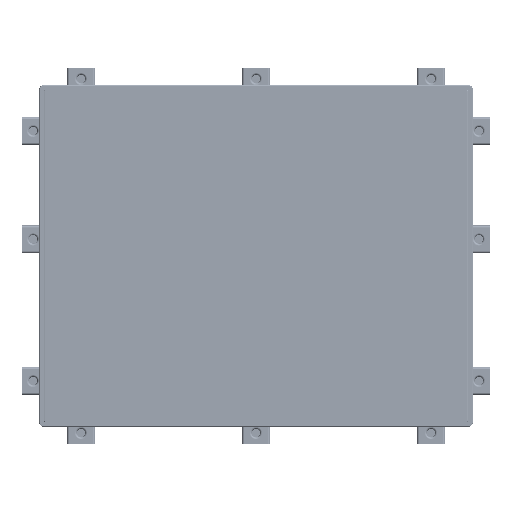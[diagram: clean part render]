
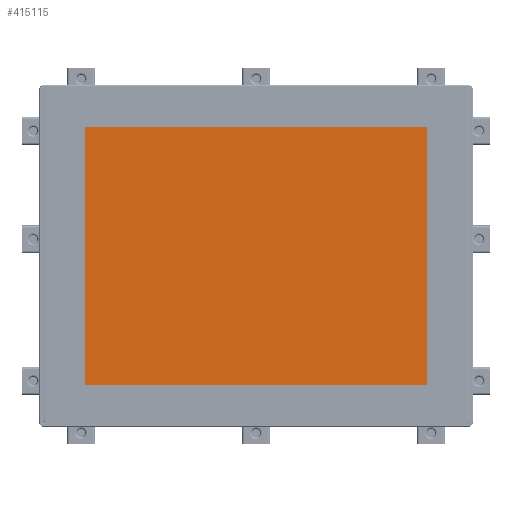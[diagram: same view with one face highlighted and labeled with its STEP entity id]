
A CAD part, top view. The second image highlights one B-rep face of the part: STEP entity #415115.
In plain terms, the highlighted planar face has unit normal (0, 0, 1).
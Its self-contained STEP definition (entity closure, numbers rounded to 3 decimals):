
#63260=DIRECTION('',(0.,-1.,0.));
#63261=VECTOR('',#63260,185.3);
#63262=CARTESIAN_POINT('',(-123.25,92.65,3.21));
#63263=LINE('',#63262,#63261);
#63264=DIRECTION('',(1.,0.,0.));
#63265=VECTOR('',#63264,246.5);
#63266=CARTESIAN_POINT('',(-123.25,92.65,3.21));
#63267=LINE('',#63266,#63265);
#63276=DIRECTION('',(0.,-1.,0.));
#63277=VECTOR('',#63276,185.3);
#63278=CARTESIAN_POINT('',(123.25,92.65,3.21));
#63279=LINE('',#63278,#63277);
#63288=DIRECTION('',(-1.,0.,0.));
#63289=VECTOR('',#63288,246.5);
#63290=CARTESIAN_POINT('',(123.25,-92.65,3.21));
#63291=LINE('',#63290,#63289);
#238772=CARTESIAN_POINT('',(-123.25,-92.65,3.21));
#238773=VERTEX_POINT('',#238772);
#238774=CARTESIAN_POINT('',(-123.25,92.65,3.21));
#238775=VERTEX_POINT('',#238774);
#238776=CARTESIAN_POINT('',(123.25,92.65,3.21));
#238777=VERTEX_POINT('',#238776);
#238778=CARTESIAN_POINT('',(123.25,-92.65,3.21));
#238779=VERTEX_POINT('',#238778);
#415101=CARTESIAN_POINT('',(0.,0.,3.21));
#415102=DIRECTION('',(0.,0.,1.));
#415103=DIRECTION('',(1.,0.,0.));
#415104=AXIS2_PLACEMENT_3D('',#415101,#415102,#415103);
#415105=PLANE('',#415104);
#415106=ORIENTED_EDGE('',*,*,#415084,.F.);
#415108=ORIENTED_EDGE('',*,*,#415107,.T.);
#415110=ORIENTED_EDGE('',*,*,#415109,.T.);
#415112=ORIENTED_EDGE('',*,*,#415111,.T.);
#415113=EDGE_LOOP('',(#415106,#415108,#415110,#415112));
#415114=FACE_OUTER_BOUND('',#415113,.F.);
#415115=ADVANCED_FACE('',(#415114),#415105,.T.);
#415084=EDGE_CURVE('',#238775,#238773,#63263,.T.);
#415107=EDGE_CURVE('',#238775,#238777,#63267,.T.);
#415109=EDGE_CURVE('',#238777,#238779,#63279,.T.);
#415111=EDGE_CURVE('',#238779,#238773,#63291,.T.);
